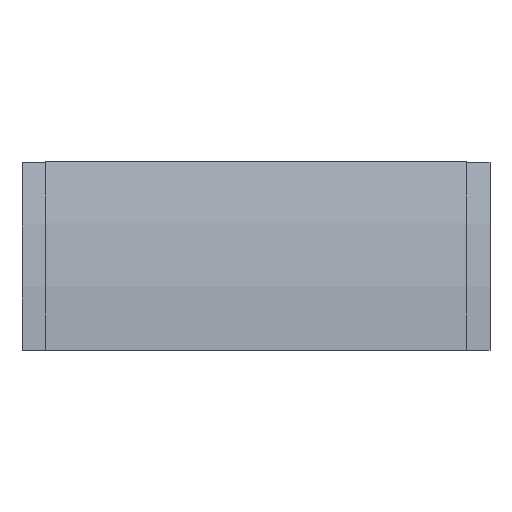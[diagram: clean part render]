
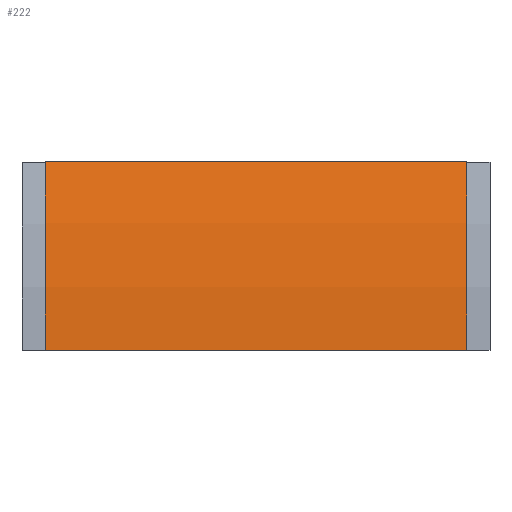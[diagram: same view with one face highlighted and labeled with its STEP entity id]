
A CAD part, front view. The second image highlights one B-rep face of the part: STEP entity #222.
In plain terms, the highlighted cylindrical face has radius 568 mm (diameter 1136 mm), a partial arc.
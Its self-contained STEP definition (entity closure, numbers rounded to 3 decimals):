
#12 = AXIS2_PLACEMENT_3D ( 'NONE', #468, #462, #487 ) ;
#15 = AXIS2_PLACEMENT_3D ( 'NONE', #492, #494, #475 ) ;
#70 = AXIS2_PLACEMENT_3D ( 'NONE', #432, #437, #435 ) ;
#178 = CIRCLE ( 'NONE', #15, 568. ) ;
#180 = LINE ( 'NONE', #473, #185 ) ;
#185 = VECTOR ( 'NONE', #461, 1000. ) ;
#188 = LINE ( 'NONE', #932, #189 ) ;
#189 = VECTOR ( 'NONE', #474, 1000. ) ;
#190 = CIRCLE ( 'NONE', #12, 568. ) ;
#222 = ADVANCED_FACE ( 'NONE', ( #742 ), #747, .T. ) ;
#264 = CARTESIAN_POINT ( 'NONE',  ( 190.5, -68., 0. ) ) ;
#304 = CARTESIAN_POINT ( 'NONE',  ( -190.5, -41.711, 170.801 ) ) ;
#307 = CARTESIAN_POINT ( 'NONE',  ( 190.5, -41.711, 170.801 ) ) ;
#311 = CARTESIAN_POINT ( 'NONE',  ( -190.5, -68., 0. ) ) ;
#432 = CARTESIAN_POINT ( 'NONE',  ( 0., 500., 0. ) ) ;
#435 = DIRECTION ( 'NONE',  ( 0., 0., -1. ) ) ;
#437 = DIRECTION ( 'NONE',  ( 1., 0., 0. ) ) ;
#461 = DIRECTION ( 'NONE',  ( 1., 0., 0. ) ) ;
#462 = DIRECTION ( 'NONE',  ( 1., 0., 0. ) ) ;
#468 = CARTESIAN_POINT ( 'NONE',  ( -190.5, 500., 0. ) ) ;
#473 = CARTESIAN_POINT ( 'NONE',  ( -190.5, -41.711, 170.801 ) ) ;
#474 = DIRECTION ( 'NONE',  ( 1., 0., 0. ) ) ;
#475 = DIRECTION ( 'NONE',  ( 0., 0., -1. ) ) ;
#487 = DIRECTION ( 'NONE',  ( 0., 0., -1. ) ) ;
#492 = CARTESIAN_POINT ( 'NONE',  ( 190.5, 500., 0. ) ) ;
#494 = DIRECTION ( 'NONE',  ( 1., 0., 0. ) ) ;
#567 = VERTEX_POINT ( 'NONE', #311 ) ;
#573 = VERTEX_POINT ( 'NONE', #307 ) ;
#576 = VERTEX_POINT ( 'NONE', #304 ) ;
#610 = VERTEX_POINT ( 'NONE', #264 ) ;
#638 = EDGE_LOOP ( 'NONE', ( #681, #680, #679, #678 ) ) ;
#678 = ORIENTED_EDGE ( 'NONE', *, *, #1011, .T. ) ;
#679 = ORIENTED_EDGE ( 'NONE', *, *, #1013, .T. ) ;
#680 = ORIENTED_EDGE ( 'NONE', *, *, #1008, .F. ) ;
#681 = ORIENTED_EDGE ( 'NONE', *, *, #1006, .F. ) ;
#742 = FACE_OUTER_BOUND ( 'NONE', #638, .T. ) ;
#747 = CYLINDRICAL_SURFACE ( 'NONE', #70, 568. ) ;
#932 = CARTESIAN_POINT ( 'NONE',  ( -190.5, -68., 0. ) ) ;
#1006 = EDGE_CURVE ( 'NONE', #573, #610, #178, .T. ) ;
#1008 = EDGE_CURVE ( 'NONE', #576, #573, #180, .T. ) ;
#1011 = EDGE_CURVE ( 'NONE', #567, #610, #188, .T. ) ;
#1013 = EDGE_CURVE ( 'NONE', #576, #567, #190, .T. ) ;
